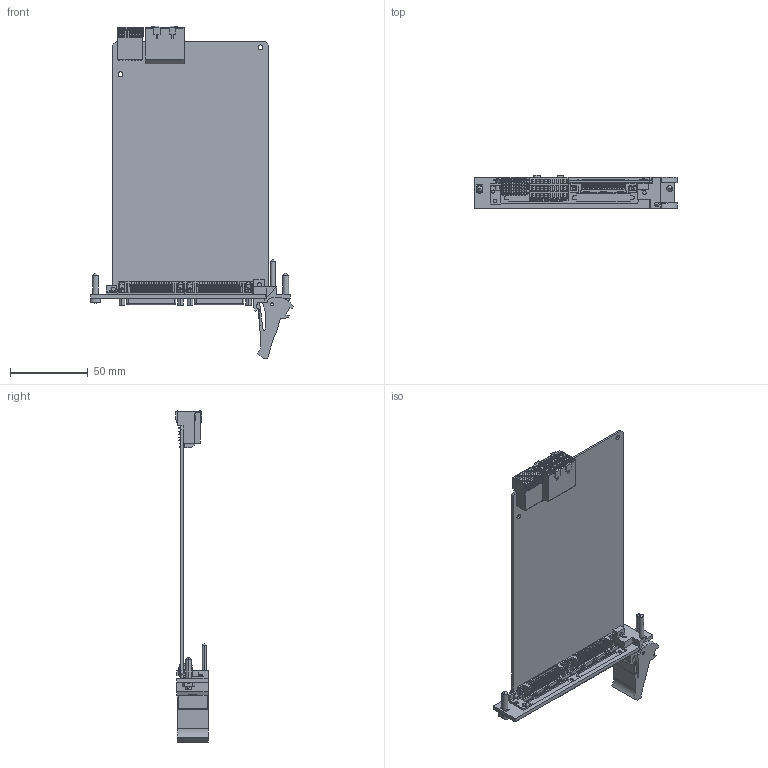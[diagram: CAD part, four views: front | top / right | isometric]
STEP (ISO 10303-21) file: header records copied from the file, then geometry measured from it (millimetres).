
FILE_DESCRIPTION((''),'2;1');
FILE_NAME('CU_PXIE-6349','2017-06-23T',('dkendric'),(''),'CREO PARAMETRIC BY PTC INC, 2015380','CREO PARAMETRIC BY PTC INC, 2015380','');
FILE_SCHEMA(('CONFIG_CONTROL_DESIGN'));
Products named in the file (1): CU_PXIE-6349
Bounding box: 130.5 x 20.93 x 213.83 mm (x, y, z)
Volume: 50640.2 mm3; surface area: 55914.7 mm2
Topology: 1 solids, 4 shells, 6602 faces, 17413 edges, 11467 vertices
Faces by surface type: plane 5168, cylinder 1359, cone 36, bspline 22, sphere 12, torus 4, extrusion 1
Entity records: 210026 total; most frequent: CARTESIAN_POINT 45222, ORIENTED_EDGE 34806, DIRECTION 32076, EDGE_CURVE 17403, VECTOR 13158, LINE 13157, VERTEX_POINT 11486, AXIS2_PLACEMENT_3D 9459
